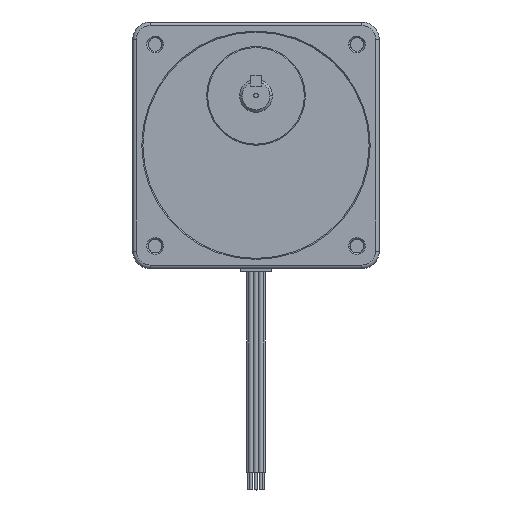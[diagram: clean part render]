
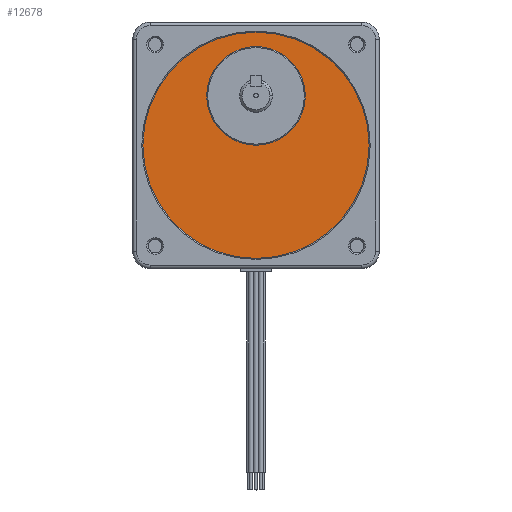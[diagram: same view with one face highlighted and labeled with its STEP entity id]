
A CAD part, top view. The second image highlights one B-rep face of the part: STEP entity #12678.
In plain terms, the highlighted planar face has unit normal (0, 0, 1).
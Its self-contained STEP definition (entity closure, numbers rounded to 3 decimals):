
#4486 = DIRECTION ( 'NONE',  ( 0., 0., 1. ) ) ;
#4487 = AXIS2_PLACEMENT_3D ( 'NONE', #4508, #4486, #4746 ) ;
#4508 = CARTESIAN_POINT ( 'NONE',  ( 0., 0., 41.012 ) ) ;
#4509 = CIRCLE ( 'NONE', #4487, 41.275 ) ;
#4602 = DIRECTION ( 'NONE',  ( 1., 0., 0. ) ) ;
#4603 = DIRECTION ( 'NONE',  ( 0., 0., 1. ) ) ;
#4604 = CARTESIAN_POINT ( 'NONE',  ( 0., 0., 41.012 ) ) ;
#4607 = AXIS2_PLACEMENT_3D ( 'NONE', #4604, #4603, #4602 ) ;
#4620 = CIRCLE ( 'NONE', #4607, 41.275 ) ;
#4651 = CARTESIAN_POINT ( 'NONE',  ( 41.275, 0., 41.012 ) ) ;
#4683 = CARTESIAN_POINT ( 'NONE',  ( 17.996, 18.009, 41.012 ) ) ;
#4684 = CARTESIAN_POINT ( 'NONE',  ( -17.996, 18.009, 41.012 ) ) ;
#4686 = CARTESIAN_POINT ( 'NONE',  ( -41.275, 0., 41.012 ) ) ;
#4706 = DIRECTION ( 'NONE',  ( 1., 0., 0. ) ) ;
#4707 = DIRECTION ( 'NONE',  ( 0., 0., 1. ) ) ;
#4708 = AXIS2_PLACEMENT_3D ( 'NONE', #4714, #4707, #4706 ) ;
#4709 = CIRCLE ( 'NONE', #4708, 17.996 ) ;
#4714 = CARTESIAN_POINT ( 'NONE',  ( 0., 18.009, 41.012 ) ) ;
#4746 = DIRECTION ( 'NONE',  ( 1., 0., 0. ) ) ;
#4944 = PLANE ( 'NONE',  #4987 ) ;
#4945 = FACE_BOUND ( 'NONE', #12702, .T. ) ;
#4970 = DIRECTION ( 'NONE',  ( 1., 0., 0. ) ) ;
#4971 = DIRECTION ( 'NONE',  ( 0., 0., 1. ) ) ;
#4972 = CARTESIAN_POINT ( 'NONE',  ( 0., 0., 41.012 ) ) ;
#4987 = AXIS2_PLACEMENT_3D ( 'NONE', #4972, #4971, #4970 ) ;
#4994 = FACE_OUTER_BOUND ( 'NONE', #12705, .T. ) ;
#5013 = DIRECTION ( 'NONE',  ( 1., 0., 0. ) ) ;
#5014 = DIRECTION ( 'NONE',  ( 0., 0., 1. ) ) ;
#5015 = CARTESIAN_POINT ( 'NONE',  ( 0., 18.009, 41.012 ) ) ;
#5016 = AXIS2_PLACEMENT_3D ( 'NONE', #5015, #5014, #5013 ) ;
#5017 = CIRCLE ( 'NONE', #5016, 17.996 ) ;
#12554 = EDGE_CURVE ( 'NONE', #12577, #12560, #4620, .T. ) ;
#12560 = VERTEX_POINT ( 'NONE', #4651 ) ;
#12572 = VERTEX_POINT ( 'NONE', #4683 ) ;
#12577 = VERTEX_POINT ( 'NONE', #4686 ) ;
#12578 = VERTEX_POINT ( 'NONE', #4684 ) ;
#12584 = EDGE_CURVE ( 'NONE', #12572, #12578, #4709, .T. ) ;
#12650 = ORIENTED_EDGE ( 'NONE', *, *, #12682, .F. ) ;
#12678 = ADVANCED_FACE ( 'NONE', ( #4994, #4945 ), #4944, .T. ) ;
#12679 = EDGE_CURVE ( 'NONE', #12560, #12577, #4509, .T. ) ;
#12682 = EDGE_CURVE ( 'NONE', #12578, #12572, #5017, .T. ) ;
#12687 = ORIENTED_EDGE ( 'NONE', *, *, #12584, .F. ) ;
#12689 = ORIENTED_EDGE ( 'NONE', *, *, #12679, .T. ) ;
#12702 = EDGE_LOOP ( 'NONE', ( #12650, #12687 ) ) ;
#12705 = EDGE_LOOP ( 'NONE', ( #12689, #12706 ) ) ;
#12706 = ORIENTED_EDGE ( 'NONE', *, *, #12554, .T. ) ;
